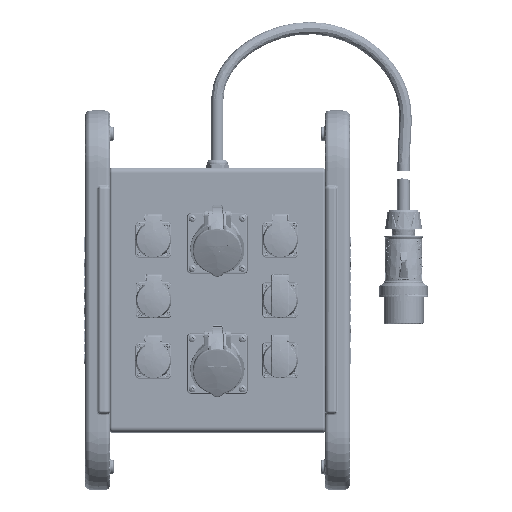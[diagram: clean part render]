
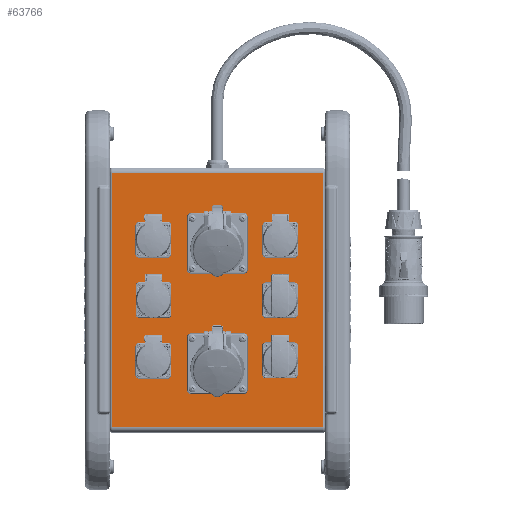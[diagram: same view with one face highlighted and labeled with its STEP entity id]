
A CAD part, top view. The second image highlights one B-rep face of the part: STEP entity #63766.
In plain terms, the highlighted planar face has unit normal (0, 0, 1).
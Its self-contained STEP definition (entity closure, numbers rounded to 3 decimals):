
#3388=DIRECTION('',(0.,1.,0.));
#3389=VECTOR('',#3388,354.);
#3390=CARTESIAN_POINT('',(332.,88.,237.));
#3391=LINE('20953',#3390,#3389);
#3454=DIRECTION('',(1.,0.,0.));
#3455=VECTOR('',#3454,294.);
#3456=CARTESIAN_POINT('',(38.,88.,237.));
#3457=LINE('20959',#3456,#3455);
#9407=DIRECTION('',(0.,-1.,0.));
#9408=VECTOR('',#9407,354.);
#9409=CARTESIAN_POINT('',(38.,442.,237.));
#9410=LINE('21007',#9409,#9408);
#9466=DIRECTION('',(-1.,0.,0.));
#9467=VECTOR('',#9466,294.);
#9468=CARTESIAN_POINT('',(332.,442.,237.));
#9469=LINE('21005',#9468,#9467);
#46778=CARTESIAN_POINT('',(332.,442.,237.));
#46779=VERTEX_POINT('',#46778);
#46780=CARTESIAN_POINT('',(332.,88.,237.));
#46781=VERTEX_POINT('',#46780);
#46784=CARTESIAN_POINT('',(38.,88.,237.));
#46785=VERTEX_POINT('',#46784);
#46854=CARTESIAN_POINT('',(38.,442.,237.));
#46855=VERTEX_POINT('',#46854);
#63755=CARTESIAN_POINT('',(345.,80.,237.));
#63756=DIRECTION('',(0.,0.,1.));
#63757=DIRECTION('',(0.,1.,0.));
#63758=AXIS2_PLACEMENT_3D('',#63755,#63756,#63757);
#63759=PLANE('25397',#63758);
#63760=ORIENTED_EDGE('20953',*,*,#54909,.F.);
#63761=ORIENTED_EDGE('20959',*,*,#54968,.F.);
#63762=ORIENTED_EDGE('21007',*,*,#63681,.F.);
#63763=ORIENTED_EDGE('21005',*,*,#63736,.F.);
#63764=EDGE_LOOP('25397',(#63760,#63761,#63762,#63763));
#63765=FACE_OUTER_BOUND('25397',#63764,.F.);
#54909=EDGE_CURVE('20953',#46781,#46779,#3391,.T.);
#54968=EDGE_CURVE('20959',#46785,#46781,#3457,.T.);
#63681=EDGE_CURVE('21007',#46855,#46785,#9410,.T.);
#63736=EDGE_CURVE('21005',#46779,#46855,#9469,.T.);
#63766=ADVANCED_FACE('25397',(#63765),#63759,.T.);
